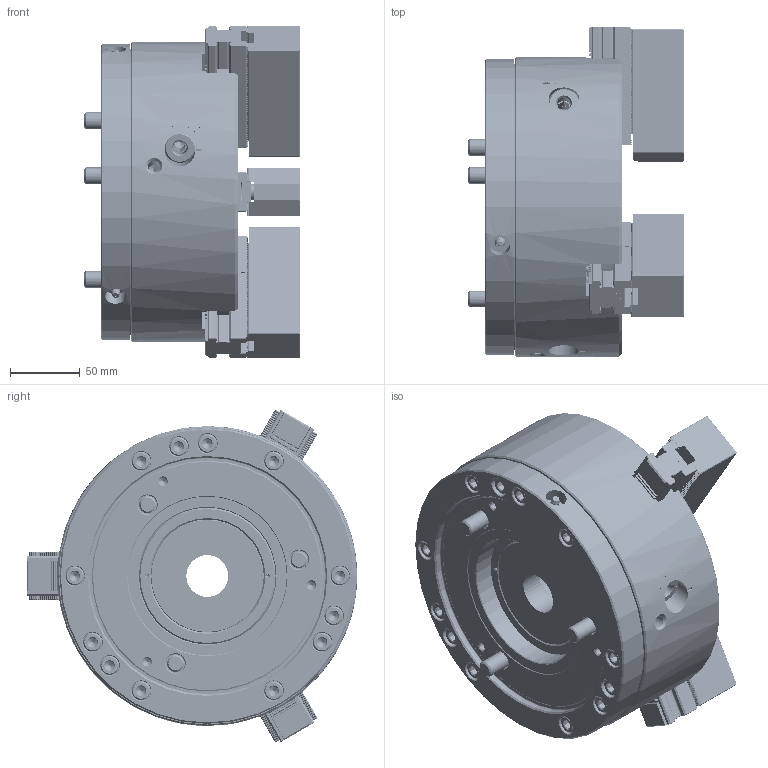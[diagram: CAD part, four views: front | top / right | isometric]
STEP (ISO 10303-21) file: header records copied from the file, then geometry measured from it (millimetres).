
FILE_DESCRIPTION (( 'STEP AP214' ), '1' );
FILE_NAME ('QJR08_61P261581-3_UC.STEP', '2026-03-12T05:08:52', ( '' ), ( '' ), 'SwSTEP 2.0', 'SolidWorks 2022', '' );
FILE_SCHEMA (( 'AUTOMOTIVE_DESIGN' ));
Length unit declared in the file: millimetre
Products named in the file (8): DT1_QJR08_BASEJAW^DT1_QJR08; DT1_QJR08_M12x95^DT1_QJR08; DT1_QJR08_DRAWNUT^DT1_QJR08; Copy of 0030112035^DT1_QJR08; Copy (2) of 0030112035^DT1_QJR08; QJR08_61P261581-3_UC; DT1_QJR08_BASE^DT1_QJR08; DT1_QJR08_SOFTJAW^DT1_QJR08
Assembly tree (17 placements, depth 2):
  QJR08_61P261581-3_UC
    DT1_QJR08_DRAWNUT^DT1_QJR08
    DT1_QJR08_SOFTJAW^DT1_QJR08  x3
    DT1_QJR08_M12x95^DT1_QJR08  x3
    DT1_QJR08_BASEJAW^DT1_QJR08  x3
    DT1_QJR08_BASE^DT1_QJR08
    Copy of 0030112035^DT1_QJR08  x3
    Copy (2) of 0030112035^DT1_QJR08  x3
Bounding box: 154.45 x 236.92 x 238.03 mm (x, y, z)
Volume: 636142.6 mm3; surface area: 395925.2 mm2
Topology: 94 solids, 95 shells, 9631 faces, 26581 edges, 17399 vertices
Faces by surface type: plane 5524, cylinder 1991, bspline 1406, cone 583, torus 115, sphere 12
Entity records: 257025 total; most frequent: CARTESIAN_POINT 112167, ORIENTED_EDGE 33082, DIRECTION 24826, EDGE_CURVE 16541, VERTEX_POINT 10845, LINE 10556, VECTOR 10556, AXIS2_PLACEMENT_3D 7135
